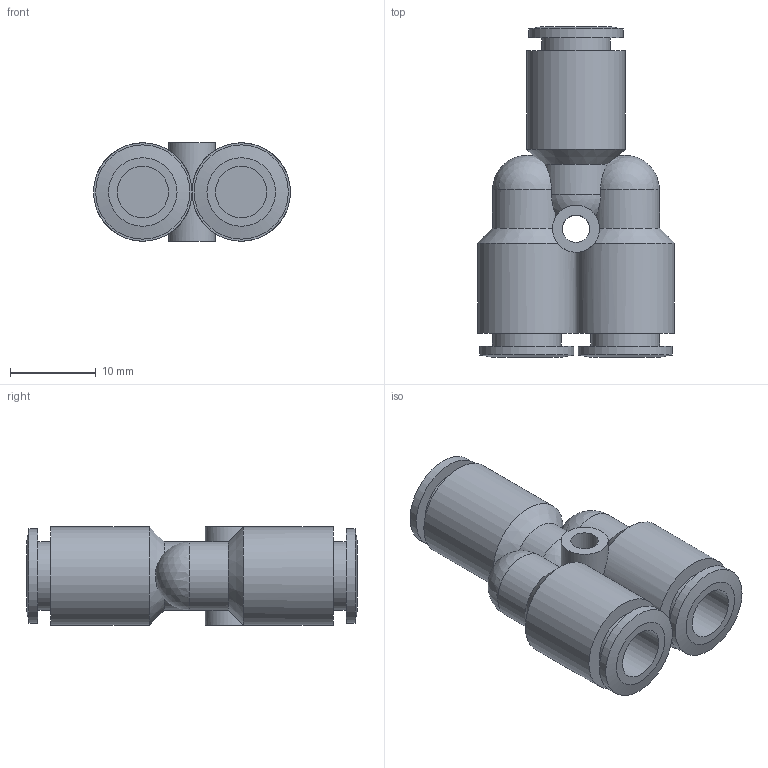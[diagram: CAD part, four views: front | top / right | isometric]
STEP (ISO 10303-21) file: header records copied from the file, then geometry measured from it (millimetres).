
FILE_DESCRIPTION((''),'2;1');
FILE_NAME('C:\Documents and Settings\rivolro1\Documenti\copia di Raccordi\PLASTICA\T23XXXX\T230600.stp','2007-11-02T14:44:24',('Rivolro1'),(''),'Autodesk Inventor 2008','Autodesk Inventor 2008','');
FILE_SCHEMA(('AUTOMOTIVE_DESIGN { 1 0 10303 214 1 1 1 1 }'));
Length unit declared in the file: millimetre
Products named in the file (1): T230600
Bounding box: 23 x 38.6 x 11.5 mm (x, y, z)
Volume: 4218.1 mm3; surface area: 3548.8 mm2
Topology: 1 solids, 1 shells, 43 faces, 102 edges, 63 vertices
Faces by surface type: cylinder 18, plane 14, cone 6, sphere 4, bspline 1
Full cylindrical faces by diameter (mm): 5.5 x2, 6 x3, 8 x3, 11 x3, 11.5 x3
Entity records: 1441 total; most frequent: CARTESIAN_POINT 519, DIRECTION 182, ORIENTED_EDGE 150, AXIS2_PLACEMENT_3D 88, EDGE_CURVE 75, EDGE_LOOP 71, VERTEX_POINT 59, CIRCLE 45
